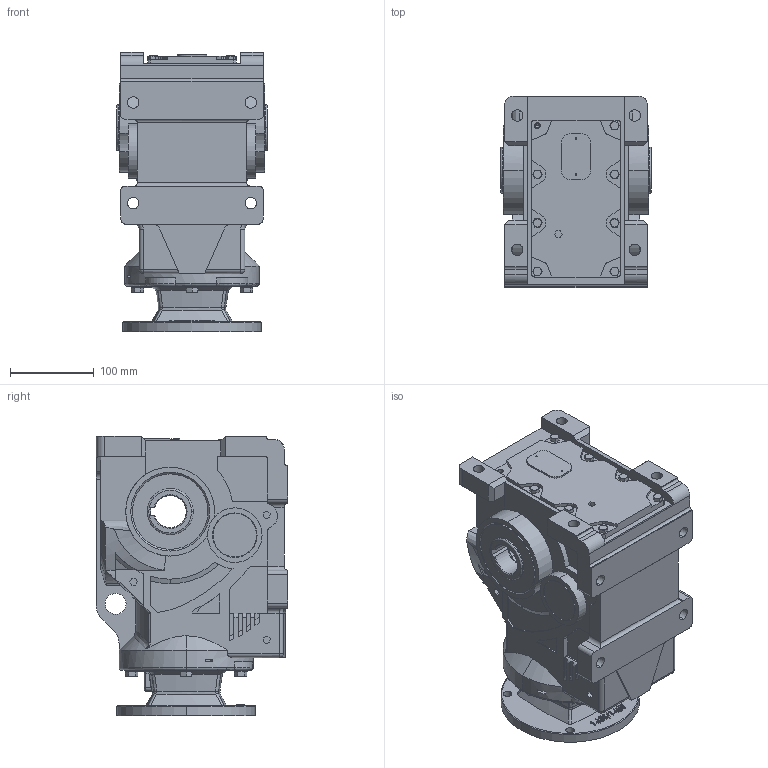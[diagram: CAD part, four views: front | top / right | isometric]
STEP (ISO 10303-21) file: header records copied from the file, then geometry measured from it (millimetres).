
FILE_DESCRIPTION (( 'STEP AP203' ), '1' );
FILE_NAME ('KHN67-143-5TC.STEP', '2022-04-07T08:23:57', ( 'user1' ), ( '' ), 'SwSTEP 2.0', 'SolidWorks 2012', '' );
FILE_SCHEMA (( 'CONFIG_CONTROL_DESIGN' ));
Length unit declared in the file: millimetre
Products named in the file (1): KHN67-143-5TC
Bounding box: 180 x 228 x 333.5 mm (x, y, z)
Volume: 7904810.6 mm3; surface area: 412147.9 mm2
Topology: 1 solids, 1 shells, 1040 faces, 2739 edges, 1775 vertices
Faces by surface type: plane 574, cylinder 252, bspline 120, cone 72, torus 20, sphere 2
Entity records: 40190 total; most frequent: CARTESIAN_POINT 15159, ORIENTED_EDGE 5466, DIRECTION 4721, EDGE_CURVE 2733, VERTEX_POINT 1775, LINE 1637, VECTOR 1637, AXIS2_PLACEMENT_3D 1542
